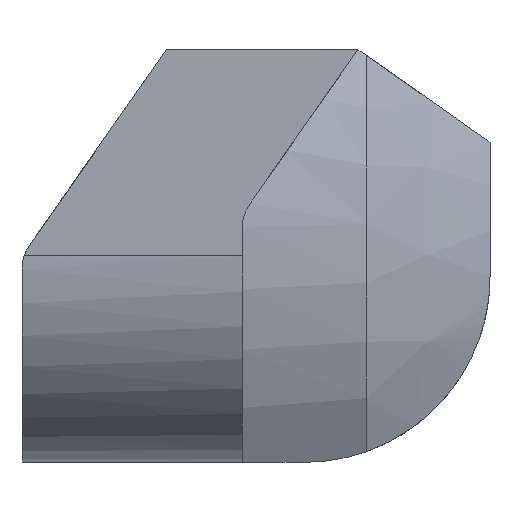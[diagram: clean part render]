
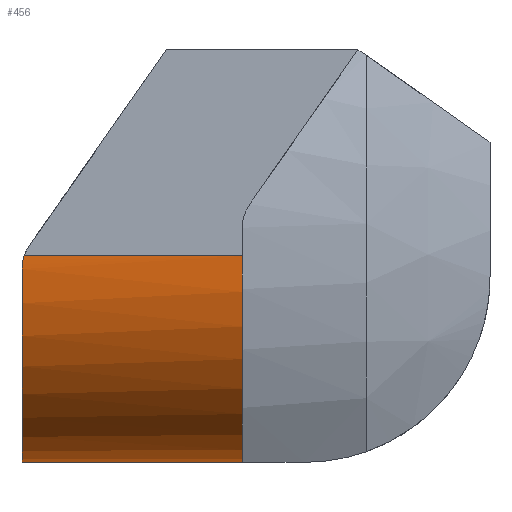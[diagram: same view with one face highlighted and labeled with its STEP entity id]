
A CAD part, left-side view. The second image highlights one B-rep face of the part: STEP entity #456.
In plain terms, the highlighted cylindrical face has radius 5 mm (diameter 10 mm), a partial arc.
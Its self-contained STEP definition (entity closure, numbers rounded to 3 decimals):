
#41=FACE_OUTER_BOUND('',#65,.T.);
#65=EDGE_LOOP('',(#359,#360,#361,#362,#363));
#85=CIRCLE('',#502,5.);
#89=CIRCLE('',#515,5.);
#112=LINE('',#793,#145);
#115=LINE('',#801,#148);
#145=VECTOR('',#603,1000.);
#148=VECTOR('',#610,1000.);
#171=B_SPLINE_CURVE_WITH_KNOTS('',3,(#723,#724,#725,#726,#727,#728,#729,
#730,#731,#732,#733,#734,#735),.UNSPECIFIED.,.F.,.F.,(4,3,3,3,4),(0.,0.,
0.,0.,0.),
 .UNSPECIFIED.);
#192=VERTEX_POINT('',#720);
#193=VERTEX_POINT('',#722);
#197=VERTEX_POINT('',#744);
#208=VERTEX_POINT('',#792);
#211=VERTEX_POINT('',#800);
#241=EDGE_CURVE('',#193,#192,#171,.T.);
#247=EDGE_CURVE('',#197,#192,#85,.T.);
#263=EDGE_CURVE('',#193,#208,#112,.T.);
#267=EDGE_CURVE('',#211,#197,#115,.T.);
#268=EDGE_CURVE('',#208,#211,#89,.T.);
#359=ORIENTED_EDGE('',*,*,#263,.F.);
#360=ORIENTED_EDGE('',*,*,#241,.T.);
#361=ORIENTED_EDGE('',*,*,#247,.F.);
#362=ORIENTED_EDGE('',*,*,#267,.F.);
#363=ORIENTED_EDGE('',*,*,#268,.F.);
#440=CYLINDRICAL_SURFACE('',#514,5.);
#456=ADVANCED_FACE('',(#41),#440,.T.);
#502=AXIS2_PLACEMENT_3D('',#746,#572,#573);
#514=AXIS2_PLACEMENT_3D('',#799,#608,#609);
#515=AXIS2_PLACEMENT_3D('',#802,#611,#612);
#572=DIRECTION('center_axis',(0.,1.,0.));
#573=DIRECTION('ref_axis',(0.,0.,-1.));
#603=DIRECTION('',(0.,-1.,0.));
#608=DIRECTION('center_axis',(0.,-1.,0.));
#609=DIRECTION('ref_axis',(0.,0.,-1.));
#610=DIRECTION('',(0.,1.,0.));
#611=DIRECTION('center_axis',(0.,-1.,0.));
#612=DIRECTION('ref_axis',(0.,0.,-1.));
#720=CARTESIAN_POINT('',(-2.772,5.122,-1.114));
#722=CARTESIAN_POINT('',(-2.782,5.071,-0.798));
#723=CARTESIAN_POINT('Ctrl Pts',(-2.782,5.071,-0.798));
#724=CARTESIAN_POINT('Ctrl Pts',(-2.782,5.082,-0.83));
#725=CARTESIAN_POINT('Ctrl Pts',(-2.782,5.09,-0.863));
#726=CARTESIAN_POINT('Ctrl Pts',(-2.781,5.098,-0.895));
#727=CARTESIAN_POINT('Ctrl Pts',(-2.78,5.105,-0.928));
#728=CARTESIAN_POINT('Ctrl Pts',(-2.779,5.111,-0.961));
#729=CARTESIAN_POINT('Ctrl Pts',(-2.778,5.115,-0.994));
#730=CARTESIAN_POINT('Ctrl Pts',(-2.777,5.119,-1.027));
#731=CARTESIAN_POINT('Ctrl Pts',(-2.775,5.121,-1.06));
#732=CARTESIAN_POINT('Ctrl Pts',(-2.773,5.122,-1.094));
#733=CARTESIAN_POINT('Ctrl Pts',(-2.773,5.122,-1.101));
#734=CARTESIAN_POINT('Ctrl Pts',(-2.772,5.122,-1.107));
#735=CARTESIAN_POINT('Ctrl Pts',(-2.772,5.122,-1.114));
#744=CARTESIAN_POINT('',(2.218,5.122,-5.798));
#746=CARTESIAN_POINT('Origin',(2.218,5.122,-0.798));
#792=CARTESIAN_POINT('',(-2.782,-0.217,-0.798));
#793=CARTESIAN_POINT('',(-2.782,8.783,-0.798));
#799=CARTESIAN_POINT('Origin',(2.218,8.783,-0.798));
#800=CARTESIAN_POINT('',(2.218,-0.217,-5.798));
#801=CARTESIAN_POINT('',(2.218,-3.217,-5.798));
#802=CARTESIAN_POINT('Origin',(2.218,-0.217,-0.798));
